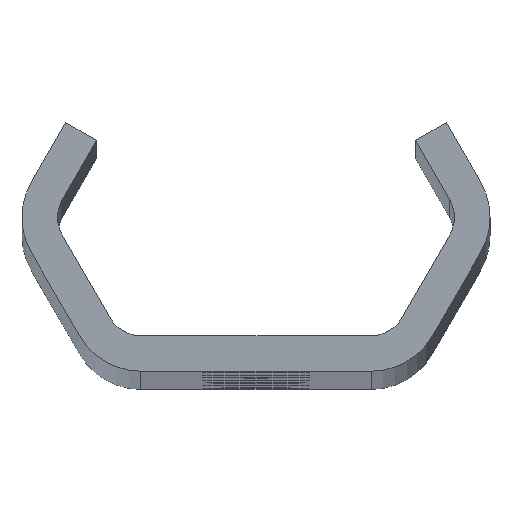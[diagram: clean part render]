
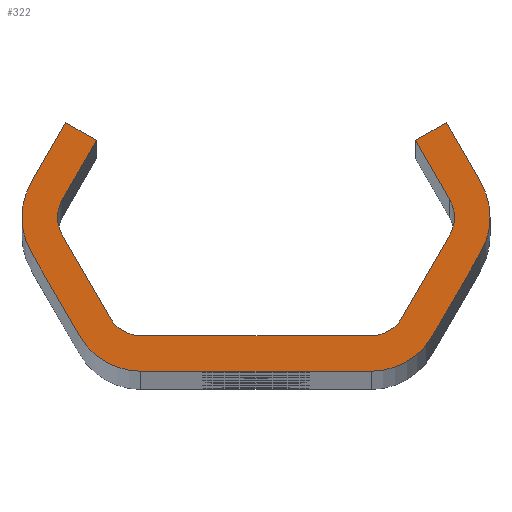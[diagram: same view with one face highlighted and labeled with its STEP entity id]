
A CAD part, top view. The second image highlights one B-rep face of the part: STEP entity #322.
In plain terms, the highlighted planar face has unit normal (0, 0, 1).
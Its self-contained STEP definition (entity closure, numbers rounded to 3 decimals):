
#322=ADVANCED_FACE('NONE',(#857),#858,.F.);
#857=FACE_OUTER_BOUND('',#2609,.T.);
#858=PLANE('',#2610);
#2609=EDGE_LOOP('',(#5226,#5227,#5228,#5229,#5230,#5231,#5232,#5233,#5234,#5235,#5236,#5237,#5238,#5239,#5240,#5241,#5242,#5243,#5244,#5245,#5246,#5247,#5248,#5249));
#2610=AXIS2_PLACEMENT_3D('',#5250,#5251,#5252);
#5226=ORIENTED_EDGE('',*,*,#7005,.T.);
#5227=ORIENTED_EDGE('',*,*,#7027,.T.);
#5228=ORIENTED_EDGE('',*,*,#6837,.T.);
#5229=ORIENTED_EDGE('',*,*,#7007,.T.);
#5230=ORIENTED_EDGE('',*,*,#7028,.T.);
#5231=ORIENTED_EDGE('',*,*,#7011,.T.);
#5232=ORIENTED_EDGE('',*,*,#7029,.T.);
#5233=ORIENTED_EDGE('',*,*,#6844,.T.);
#5234=ORIENTED_EDGE('',*,*,#7030,.T.);
#5235=ORIENTED_EDGE('',*,*,#6715,.T.);
#5236=ORIENTED_EDGE('',*,*,#6847,.T.);
#5237=ORIENTED_EDGE('',*,*,#6853,.T.);
#5238=ORIENTED_EDGE('',*,*,#6856,.T.);
#5239=ORIENTED_EDGE('',*,*,#6834,.T.);
#5240=ORIENTED_EDGE('',*,*,#7031,.T.);
#5241=ORIENTED_EDGE('',*,*,#6858,.T.);
#5242=ORIENTED_EDGE('',*,*,#7032,.T.);
#5243=ORIENTED_EDGE('',*,*,#6865,.T.);
#5244=ORIENTED_EDGE('',*,*,#7033,.T.);
#5245=ORIENTED_EDGE('',*,*,#6992,.T.);
#5246=ORIENTED_EDGE('',*,*,#7034,.T.);
#5247=ORIENTED_EDGE('',*,*,#6710,.T.);
#5248=ORIENTED_EDGE('',*,*,#6995,.T.);
#5249=ORIENTED_EDGE('',*,*,#7001,.T.);
#5250=CARTESIAN_POINT('',(0.0,0.0,880.0));
#5251=DIRECTION('',(0.0,0.0,-1.0));
#5252=DIRECTION('',(0.0,-1.0,0.0));
#6710=EDGE_CURVE('NONE',#7498,#7502,#7504,.T.);
#6715=EDGE_CURVE('NONE',#7507,#7511,#7513,.T.);
#6834=EDGE_CURVE('NONE',#7727,#7725,#7728,.T.);
#6837=EDGE_CURVE('NONE',#7731,#7732,#7733,.T.);
#6844=EDGE_CURVE('NONE',#7745,#7743,#7746,.T.);
#6847=EDGE_CURVE('NONE',#7511,#7749,#7750,.T.);
#6853=EDGE_CURVE('NONE',#7749,#7757,#7759,.T.);
#6856=EDGE_CURVE('NONE',#7757,#7727,#7762,.T.);
#6858=EDGE_CURVE('NONE',#7764,#7765,#7766,.T.);
#6865=EDGE_CURVE('NONE',#7778,#7776,#7779,.T.);
#6992=EDGE_CURVE('NONE',#8014,#8012,#8015,.T.);
#6995=EDGE_CURVE('NONE',#7502,#8018,#8019,.T.);
#7001=EDGE_CURVE('NONE',#8018,#8026,#8028,.T.);
#7005=EDGE_CURVE('NONE',#8026,#8032,#8034,.T.);
#7007=EDGE_CURVE('NONE',#7732,#8036,#8037,.T.);
#7011=EDGE_CURVE('NONE',#8042,#8043,#8044,.T.);
#7027=EDGE_CURVE('NONE',#8032,#7731,#8062,.T.);
#7028=EDGE_CURVE('NONE',#8036,#8042,#8063,.T.);
#7029=EDGE_CURVE('NONE',#8043,#7745,#8064,.T.);
#7030=EDGE_CURVE('NONE',#7743,#7507,#8065,.T.);
#7031=EDGE_CURVE('NONE',#7725,#7764,#8066,.T.);
#7032=EDGE_CURVE('NONE',#7765,#7778,#8067,.T.);
#7033=EDGE_CURVE('NONE',#7776,#8014,#8068,.T.);
#7034=EDGE_CURVE('NONE',#8012,#7498,#8069,.T.);
#7498=VERTEX_POINT('',#8668);
#7502=VERTEX_POINT('NONE',#8673);
#7504=CIRCLE('',#8676,3.0);
#7507=VERTEX_POINT('',#8679);
#7511=VERTEX_POINT('NONE',#8684);
#7513=CIRCLE('',#8687,6.0);
#7725=VERTEX_POINT('NONE',#9971);
#7727=VERTEX_POINT('NONE',#9974);
#7728=CIRCLE('',#9975,3.0);
#7731=VERTEX_POINT('NONE',#9979);
#7732=VERTEX_POINT('NONE',#9980);
#7733=CIRCLE('',#9981,6.0);
#7743=VERTEX_POINT('NONE',#9994);
#7745=VERTEX_POINT('NONE',#9997);
#7746=LINE('',#9998,#9999);
#7749=VERTEX_POINT('NONE',#10003);
#7750=LINE('',#10004,#10005);
#7757=VERTEX_POINT('NONE',#10015);
#7759=LINE('',#10018,#10019);
#7762=LINE('',#10023,#10024);
#7764=VERTEX_POINT('NONE',#10026);
#7765=VERTEX_POINT('NONE',#10027);
#7766=LINE('',#10028,#10029);
#7776=VERTEX_POINT('NONE',#10043);
#7778=VERTEX_POINT('NONE',#10046);
#7779=LINE('',#10047,#10048);
#8012=VERTEX_POINT('NONE',#10883);
#8014=VERTEX_POINT('NONE',#10886);
#8015=LINE('',#10887,#10888);
#8018=VERTEX_POINT('NONE',#10892);
#8019=LINE('',#10893,#10894);
#8026=VERTEX_POINT('NONE',#10904);
#8028=LINE('',#10907,#10908);
#8032=VERTEX_POINT('NONE',#10913);
#8034=LINE('',#10916,#10917);
#8036=VERTEX_POINT('NONE',#10919);
#8037=LINE('',#10920,#10921);
#8042=VERTEX_POINT('NONE',#10928);
#8043=VERTEX_POINT('NONE',#10929);
#8044=LINE('',#10930,#10931);
#8062=CIRCLE('',#10952,6.0);
#8063=CIRCLE('',#10953,6.0);
#8064=CIRCLE('',#10954,6.0);
#8065=CIRCLE('',#10955,6.0);
#8066=CIRCLE('',#10956,3.0);
#8067=CIRCLE('',#10957,3.0);
#8068=CIRCLE('',#10958,3.0);
#8069=CIRCLE('',#10959,3.0);
#8668=CARTESIAN_POINT('',(-16.764,0.,880.0));
#8673=CARTESIAN_POINT('',(-16.362,1.5,880.0));
#8676=AXIS2_PLACEMENT_3D('',#12911,#12912,#12913);
#8679=CARTESIAN_POINT('',(19.764,0.,880.0));
#8684=CARTESIAN_POINT('',(18.96,3.,880.0));
#8687=AXIS2_PLACEMENT_3D('',#12919,#12920,#12921);
#9971=CARTESIAN_POINT('',(16.764,0.,880.0));
#9974=CARTESIAN_POINT('',(16.362,1.5,880.0));
#9975=AXIS2_PLACEMENT_3D('',#13038,#13039,#13040);
#9979=CARTESIAN_POINT('',(-19.764,0.,880.0));
#9980=CARTESIAN_POINT('',(-18.96,-3.,880.0));
#9981=AXIS2_PLACEMENT_3D('',#13042,#13043,#13044);
#9994=CARTESIAN_POINT('',(18.96,-3.,880.0));
#9997=CARTESIAN_POINT('',(14.919,-10.,880.0));
#9998=CARTESIAN_POINT('',(20.692,0.,880.0));
#9999=VECTOR('',#13052,1000.0);
#10003=CARTESIAN_POINT('',(16.074,8.,880.0));
#10004=CARTESIAN_POINT('',(16.074,8.,880.0));
#10005=VECTOR('',#13054,1000.0);
#10015=CARTESIAN_POINT('',(13.475,6.5,880.0));
#10018=CARTESIAN_POINT('',(13.475,6.5,880.0));
#10019=VECTOR('',#13059,1000.0);
#10023=CARTESIAN_POINT('',(17.228,0.,880.0));
#10024=VECTOR('',#13061,1000.0);
#10026=CARTESIAN_POINT('',(16.362,-1.5,880.0));
#10027=CARTESIAN_POINT('',(12.321,-8.5,880.0));
#10028=CARTESIAN_POINT('',(11.455,-10.0,880.0));
#10029=VECTOR('',#13062,1000.0);
#10043=CARTESIAN_POINT('',(-9.723,-10.0,880.0));
#10046=CARTESIAN_POINT('',(9.723,-10.0,880.0));
#10047=CARTESIAN_POINT('',(-11.455,-10.0,880.0));
#10048=VECTOR('',#13068,1000.0);
#10883=CARTESIAN_POINT('',(-16.362,-1.5,880.0));
#10886=CARTESIAN_POINT('',(-12.321,-8.5,880.0));
#10887=CARTESIAN_POINT('',(-17.228,0.,880.0));
#10888=VECTOR('',#13204,1000.0);
#10892=CARTESIAN_POINT('',(-13.475,6.5,880.0));
#10893=CARTESIAN_POINT('',(-13.475,6.5,880.0));
#10894=VECTOR('',#13206,1000.0);
#10904=CARTESIAN_POINT('',(-16.074,8.,880.0));
#10907=CARTESIAN_POINT('',(-13.475,6.5,880.0));
#10908=VECTOR('',#13211,1000.0);
#10913=CARTESIAN_POINT('',(-18.96,3.,880.0));
#10916=CARTESIAN_POINT('',(-16.074,8.,880.0));
#10917=VECTOR('',#13214,1000.0);
#10919=CARTESIAN_POINT('',(-14.919,-10.,880.0));
#10920=CARTESIAN_POINT('',(-20.692,0.,880.0));
#10921=VECTOR('',#13215,1000.0);
#10928=CARTESIAN_POINT('',(-9.723,-13.0,880.0));
#10929=CARTESIAN_POINT('',(9.723,-13.0,880.0));
#10930=CARTESIAN_POINT('',(-13.187,-13.0,880.0));
#10931=VECTOR('',#13218,1000.0);
#10952=AXIS2_PLACEMENT_3D('',#13255,#13256,#13257);
#10953=AXIS2_PLACEMENT_3D('',#13258,#13259,#13260);
#10954=AXIS2_PLACEMENT_3D('',#13261,#13262,#13263);
#10955=AXIS2_PLACEMENT_3D('',#13264,#13265,#13266);
#10956=AXIS2_PLACEMENT_3D('',#13267,#13268,#13269);
#10957=AXIS2_PLACEMENT_3D('',#13270,#13271,#13272);
#10958=AXIS2_PLACEMENT_3D('',#13273,#13274,#13275);
#10959=AXIS2_PLACEMENT_3D('',#13276,#13277,#13278);
#12911=CARTESIAN_POINT('',(-13.764,0.,880.0));
#12912=DIRECTION('',(0.0,0.0,-1.0));
#12913=DIRECTION('',(-1.0,0.0,0.0));
#12919=CARTESIAN_POINT('',(13.764,0.,880.0));
#12920=DIRECTION('',(0.0,0.0,1.0));
#12921=DIRECTION('',(-1.0,0.0,0.0));
#13038=CARTESIAN_POINT('',(13.764,0.,880.0));
#13039=DIRECTION('',(0.0,0.0,-1.0));
#13040=DIRECTION('',(-1.0,0.0,0.0));
#13042=CARTESIAN_POINT('',(-13.764,0.,880.0));
#13043=DIRECTION('',(0.0,0.0,1.0));
#13044=DIRECTION('',(-1.0,0.0,0.0));
#13052=DIRECTION('',(0.5,0.866,-0.0));
#13054=DIRECTION('',(-0.5,0.866,-0.0));
#13059=DIRECTION('',(-0.866,-0.5,-0.0));
#13061=DIRECTION('',(0.5,-0.866,-0.0));
#13062=DIRECTION('',(-0.5,-0.866,-0.0));
#13068=DIRECTION('',(-1.0,0.,-0.0));
#13204=DIRECTION('',(-0.5,0.866,-0.0));
#13206=DIRECTION('',(0.5,0.866,-0.0));
#13211=DIRECTION('',(-0.866,0.5,0.0));
#13214=DIRECTION('',(-0.5,-0.866,0.0));
#13215=DIRECTION('',(0.5,-0.866,0.0));
#13218=DIRECTION('',(1.0,0.0,0.0));
#13255=CARTESIAN_POINT('',(-13.764,0.,880.0));
#13256=DIRECTION('',(0.0,0.0,1.0));
#13257=DIRECTION('',(-1.0,0.,0.0));
#13258=CARTESIAN_POINT('',(-9.723,-7.0,880.0));
#13259=DIRECTION('',(0.0,0.0,1.0));
#13260=DIRECTION('',(-1.0,0.0,0.0));
#13261=CARTESIAN_POINT('',(9.723,-7.0,880.0));
#13262=DIRECTION('',(0.0,0.0,1.0));
#13263=DIRECTION('',(-1.0,0.,0.0));
#13264=CARTESIAN_POINT('',(13.764,0.,880.0));
#13265=DIRECTION('',(0.0,0.0,1.0));
#13266=DIRECTION('',(-1.0,0.0,0.0));
#13267=CARTESIAN_POINT('',(13.764,0.,880.0));
#13268=DIRECTION('',(0.0,0.0,-1.0));
#13269=DIRECTION('',(-1.0,0.0,0.0));
#13270=CARTESIAN_POINT('',(9.723,-7.0,880.0));
#13271=DIRECTION('',(0.0,0.0,-1.0));
#13272=DIRECTION('',(-1.0,0.0,0.0));
#13273=CARTESIAN_POINT('',(-9.723,-7.0,880.0));
#13274=DIRECTION('',(0.0,0.0,-1.0));
#13275=DIRECTION('',(-1.0,0.0,0.0));
#13276=CARTESIAN_POINT('',(-13.764,0.,880.0));
#13277=DIRECTION('',(0.0,0.0,-1.0));
#13278=DIRECTION('',(-1.0,0.0,0.0));
